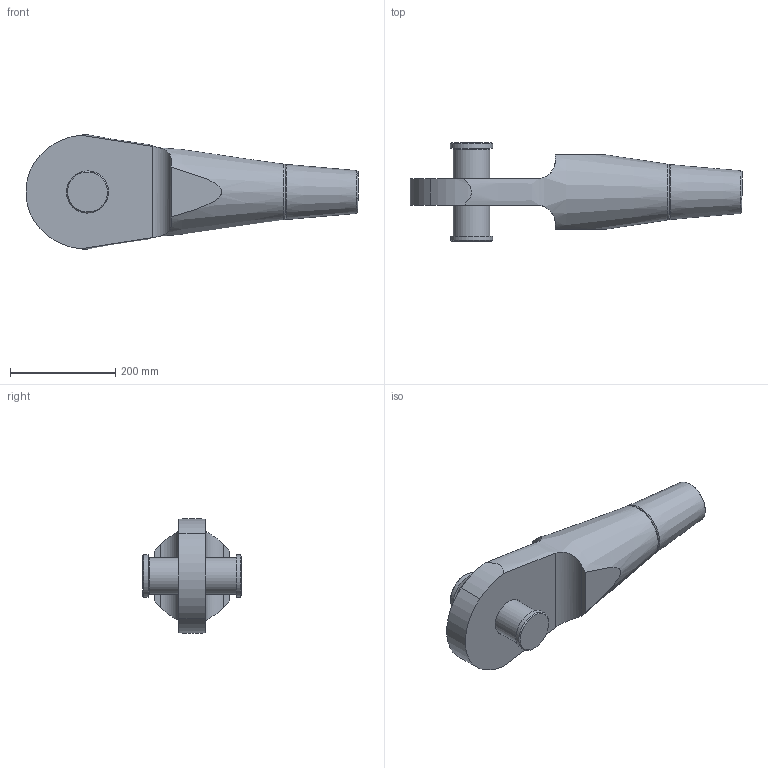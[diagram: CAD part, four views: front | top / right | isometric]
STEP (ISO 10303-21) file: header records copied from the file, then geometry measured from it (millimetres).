
FILE_DESCRIPTION(/* description */ (''),/* implementation_level */ '2;1');
FILE_NAME(/* name */ 'G:\Engineering\700 CAD\Internet-PX-1-step-igs-dxf\520-OES-Arbeitsdateien\520-070-OES.stp',/* time_stamp */ '2020-06-26T10:38:20+02:00',/* author */ ('schwarz'),/* organization */ (''),/* preprocessor_version */ 'ST-DEVELOPER v16.1',/* originating_system */ 'Autodesk Inventor 2016',/* authorisation */ '');
FILE_SCHEMA (('AUTOMOTIVE_DESIGN { 1 0 10303 214 3 1 1 }'));
Length unit declared in the file: centimetre
Products named in the file (1): 520-070-OES-KMU-Kunde
Bounding box: 629.65 x 187.3 x 217.09 mm (x, y, z)
Volume: 6828161.7 mm3; surface area: 364134.7 mm2
Topology: 2 solids, 4 shells, 49 faces, 108 edges, 70 vertices
Faces by surface type: plane 22, cylinder 14, cone 12, torus 1
Full cylindrical faces by diameter (mm): 13.835 x1, 16 x1, 17.5 x1, 29.01 x1, 70 x1, 73 x2, 80 x2
Entity records: 1392 total; most frequent: CARTESIAN_POINT 352, DIRECTION 198, ORIENTED_EDGE 158, AXIS2_PLACEMENT_3D 89, EDGE_CURVE 79, EDGE_LOOP 78, VERTEX_POINT 63, STYLED_ITEM 51
